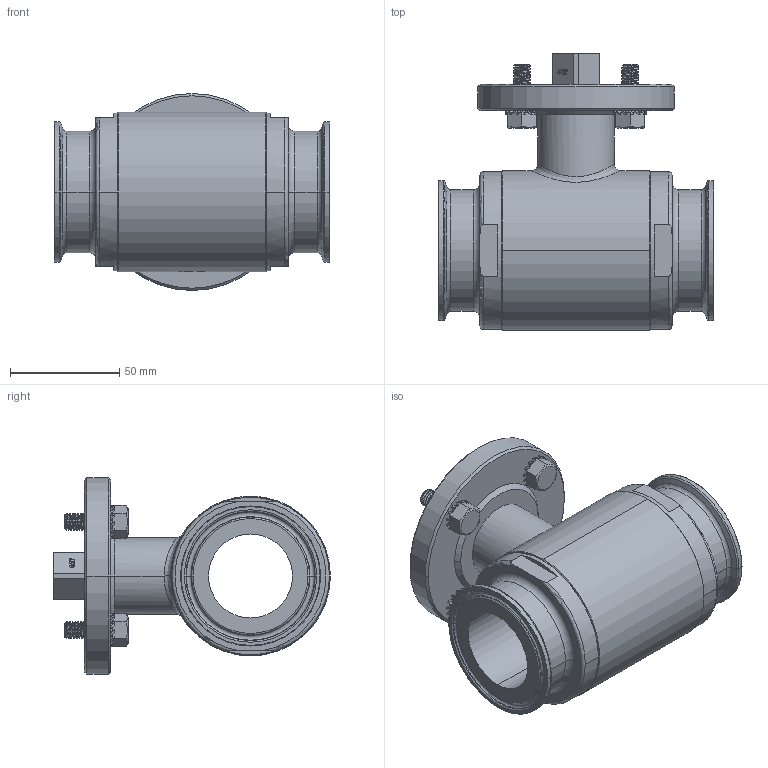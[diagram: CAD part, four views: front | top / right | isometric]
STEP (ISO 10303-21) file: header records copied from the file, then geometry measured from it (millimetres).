
FILE_DESCRIPTION((''),'2;1');
FILE_NAME('1030306331F_','2024-06-05T11:07:55',('alfio.taboni'),('CDM Tecnoconsulting'),'CREO PARAMETRIC BY PTC INC, 2023374','CREO PARAMETRIC BY PTC INC, 2023374','');
FILE_SCHEMA(('CONFIG_CONTROL_DESIGN','SHAPE_APPEARANCE_LAYERS_GROUPS'));
Products named in the file (1): 1030306331F_
Bounding box: 126 x 126.5 x 90 mm (x, y, z)
Volume: 378545 mm3; surface area: 111694.4 mm2
Topology: 1 solids, 1 shells, 1388 faces, 3834 edges, 2493 vertices
Faces by surface type: plane 561, cylinder 389, cone 182, extrusion 111, bspline 91, torus 50, sphere 4
Entity records: 92713 total; most frequent: CARTESIAN_POINT 47784, ORIENTED_EDGE 7656, DIRECTION 5781, PRESENTATION_STYLE_ASSIGNMENT 3855, STYLED_ITEM 3829, CURVE_STYLE 3828, EDGE_CURVE 3828, VERTEX_POINT 2493
